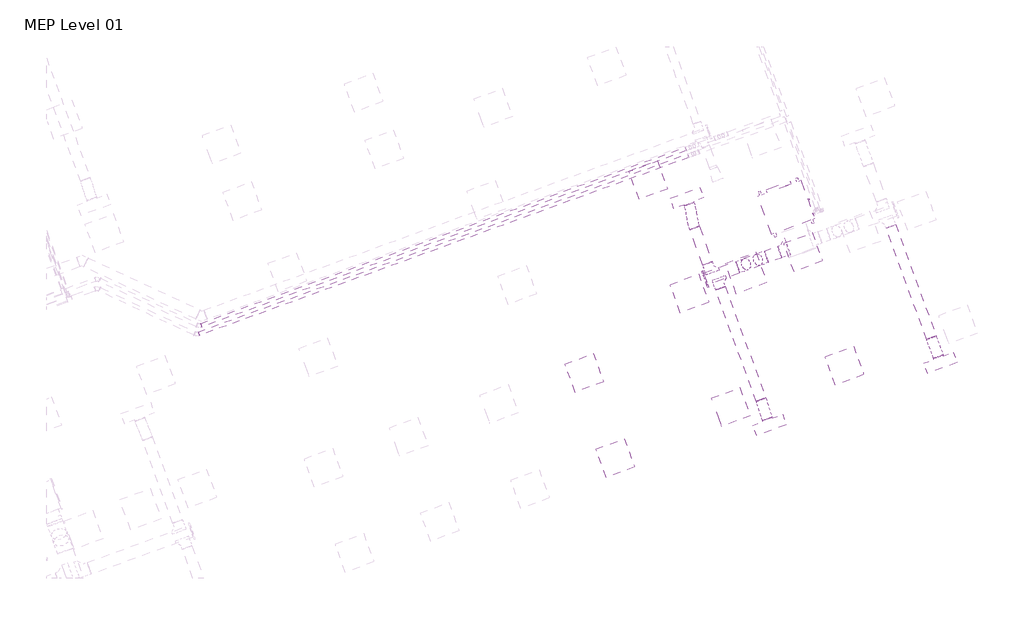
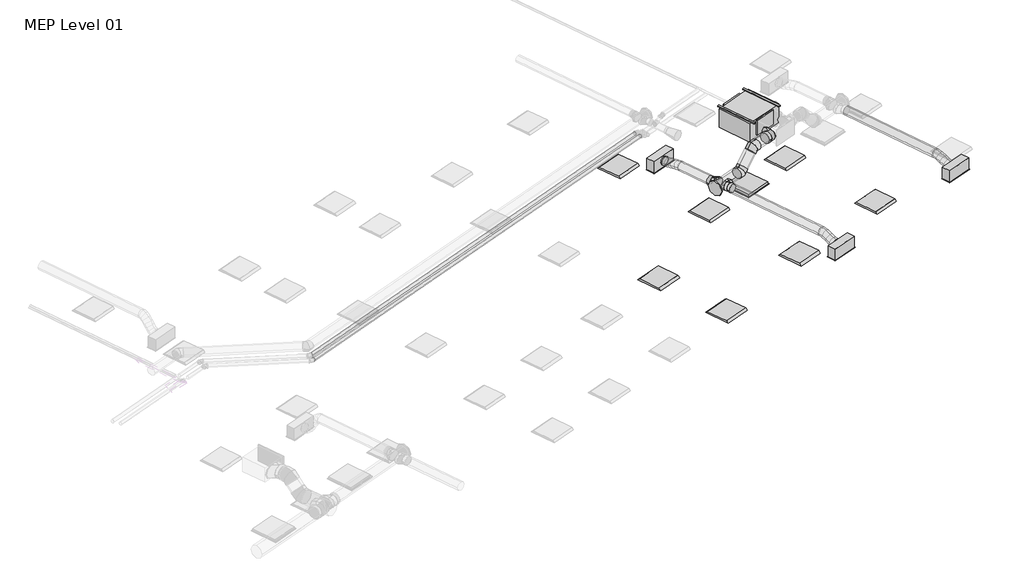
# One storey, part 25 of 29: 9 duct segments, 7 light fixtures, 6 duct fittings, 4 air terminals, 2 pipe segments, 1 proxy.
"""IFC4 building model written with IfcOpenShell, lengths in millimetres."""

from ifc_helpers import new_model, si_unit, point, frame, frame_2d, origin, place, context, project, spatial, circle_curve, ellipse_curve, trimmed, segment, composite_curve, outline, extrude, transform, mapped, element, save
from ifc_brep_helpers import plane_surface, cylinder_surface, advanced_brep
from components import return_grille_rectangular_hosted_standard_7b12617c, supply_diffuser_with_plenum_linear_slot_hosted_8c379eed, fan_coil_unit_ceiling_ducted_chw_376_lps_233c1d69, dw144_round_blank_end_standard_e3d0b58b, dw144_round_segmented_bend_slip_joint_standard_636bd9c1, dw144_round_shoe_branch_slip_joint_standard_559552f4, dw144_round_shoe_branch_slip_joint_standard_671412f0, light_fixture_600x600_230_1c7c1157, light_fixture_600x600_230_b730b5ca

model = new_model("IFC4")

# Units and contexts
model_context = context("Model", 3, world=origin())
ifc_project = project(units=[si_unit("LENGTHUNIT", "METRE", prefix="MILLI")], contexts=[model_context])

# Site, building, storey
site = spatial("IfcSite", under=ifc_project)
building = spatial("IfcBuilding", under=site)
storey = spatial("IfcBuildingStorey", under=building, Name="MEP Level 01", Elevation=3900.0)

# Air terminals
placement = place(None, origin())
return_grille_rectangular_hosted_standard_shape = return_grille_rectangular_hosted_standard_7b12617c(model_context)
element("IfcAirTerminal", 1, ObjectType="Return Grille - Rectangular - Hosted : Standard", at=placement, inside=storey, context=model_context, shape_type="MappedRepresentation", body=[
    mapped(return_grille_rectangular_hosted_standard_shape, transform((60085.8279951, 13927.8982228, 6700.0), x_axis=(0.939692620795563, 0.3420201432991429, 0.0), y_axis=(0.3420201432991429, -0.939692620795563, 0.0), z_axis=(0.0, 0.0, -1.0))),
])
supply_diffuser_with_plenum_linear_slot_hosted_shape = supply_diffuser_with_plenum_linear_slot_hosted_8c379eed(model_context)
element("IfcAirTerminal", 2, ObjectType="Supply Diffuser with Plenum - Linear Slot - Hosted : 600mmx193.8mm-200 In Inlet  4-Slot", at=placement, inside=storey, context=model_context, shape_type="MappedRepresentation", body=[
    mapped(supply_diffuser_with_plenum_linear_slot_hosted_shape, transform((58909.9480529, 15418.2584463, 6700.0), x_axis=(-0.9396926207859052, -0.3420201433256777, 0.0), y_axis=(-0.3420201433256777, 0.9396926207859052, 0.0), z_axis=(0.0, 0.0, -1.0))),
])
element("IfcAirTerminal", 3, ObjectType="Supply Diffuser with Plenum - Linear Slot - Hosted : 600mmx193.8mm-200 In Inlet  4-Slot", at=placement, inside=storey, context=model_context, shape_type="MappedRepresentation", body=[
    mapped(supply_diffuser_with_plenum_linear_slot_hosted_shape, transform((60551.6447408, 10907.7338665, 6700.0), x_axis=(0.939692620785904, 0.34202014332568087, 0.0), y_axis=(0.34202014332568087, -0.939692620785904, 0.0), z_axis=(0.0, 0.0, -1.0))),
])
element("IfcAirTerminal", 4, ObjectType="Supply Diffuser with Plenum - Linear Slot - Hosted : 600mmx193.8mm-200 In Inlet  4-Slot", at=placement, inside=storey, context=model_context, shape_type="MappedRepresentation", body=[
    mapped(supply_diffuser_with_plenum_linear_slot_hosted_shape, transform((63945.5325789, 12143.008018, 6700.0), x_axis=(0.939692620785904, 0.34202014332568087, 0.0), y_axis=(0.34202014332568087, -0.939692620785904, 0.0), z_axis=(0.0, 0.0, -1.0))),
])

# Proxy
fan_coil_unit_ceiling_ducted_chw_376_lps_shape = fan_coil_unit_ceiling_ducted_chw_376_lps_233c1d69(model_context)
element("IfcBuildingElementProxy", 5, Name="Fan Coil Unit - Ceiling Ducted - CHW : 376 LPS", ObjectType="Fan Coil Unit - Ceiling Ducted - CHW : 376 LPS", at=placement, inside=storey, context=model_context, shape_type="MappedRepresentation", body=[
    mapped(fan_coil_unit_ceiling_ducted_chw_376_lps_shape, transform((60591.3674268, 14691.8764142, 7115.575), x_axis=(0.9396926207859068, 0.34202014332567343, 0.0), y_axis=(-0.34202014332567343, 0.9396926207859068, 0.0), z_axis=(0.0, 0.0, 1.0))),
])

# Duct fittings
dw144_round_blank_end_standard_shape = dw144_round_blank_end_standard_e3d0b58b(model_context)
element("IfcDuctFitting", 6, ObjectType="DW144 Round Blank End : Standard", at=placement, inside=storey, context=model_context, shape_type="MappedRepresentation", body=[
    mapped(dw144_round_blank_end_standard_shape, transform((59281.7426902, 13810.5786489, 6972.2088531), x_axis=(-0.9396926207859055, -0.3420201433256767, 0.0), y_axis=(0.3420201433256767, -0.9396926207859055, 0.0), z_axis=(0.0, 0.0, 1.0))),
])
dw144_round_segmented_bend_slip_joint_standard_shape = dw144_round_segmented_bend_slip_joint_standard_636bd9c1(model_context)
element("IfcDuctFitting", 7, ObjectType="DW144 Round Segmented Bend - Slip Joint : Standard", at=placement, inside=storey, context=model_context, shape_type="MappedRepresentation", body=[
    mapped(dw144_round_segmented_bend_slip_joint_standard_shape, transform((60017.1840423, 14078.2574101, 6972.2088531), x_axis=(-0.6644630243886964, -0.24184476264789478, -0.7071067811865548), y_axis=(-0.6644630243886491, -0.24184476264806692, 0.7071067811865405), z_axis=(-0.34202014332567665, 0.9396926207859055, 0.0))),
])
element("IfcDuctFitting", 8, ObjectType="DW144 Round Segmented Bend - Slip Joint : Standard", at=placement, inside=storey, context=model_context, shape_type="MappedRepresentation", body=[
    mapped(dw144_round_segmented_bend_slip_joint_standard_shape, transform((60390.5860782, 14214.1646366, 7369.575), x_axis=(-0.9396926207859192, -0.3420201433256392, 0.0), y_axis=(0.0, 0.0, -1.0000000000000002), z_axis=(0.3420201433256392, -0.9396926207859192, 0.0))),
])
dw144_round_shoe_branch_slip_joint_standard_shape = dw144_round_shoe_branch_slip_joint_standard_559552f4(model_context)
element("IfcDuctFitting", 9, ObjectType="DW144 Round Shoe Branch - Slip Joint : Standard", at=placement, inside=storey, context=model_context, shape_type="MappedRepresentation", body=[
    mapped(dw144_round_shoe_branch_slip_joint_standard_shape, transform((59369.8278219, 13975.6612364, 6972.2088531), x_axis=(-0.34202014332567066, 0.9396926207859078, 0.0), y_axis=(0.9396926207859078, 0.34202014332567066, 0.0), z_axis=(0.0, 0.0, -1.0))),
])
element("IfcDuctFitting", 10, ObjectType="DW144 Round Shoe Branch - Slip Joint : Standard", at=placement, inside=storey, context=model_context, shape_type="MappedRepresentation", body=[
    mapped(dw144_round_shoe_branch_slip_joint_standard_shape, transform((59523.8850118, 13765.6890248, 6972.2088531), x_axis=(0.3420201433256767, -0.9396926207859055, 0.0), y_axis=(0.9396926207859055, 0.3420201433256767, 0.0), z_axis=(0.0, 0.0, 1.0))),
])
dw144_round_shoe_branch_slip_joint_standard_2_shape = dw144_round_shoe_branch_slip_joint_standard_671412f0(model_context)
element("IfcDuctFitting", 11, ObjectType="DW144 Round Shoe Branch - Slip Joint : Standard", at=placement, inside=storey, context=model_context, shape_type="MappedRepresentation", body=[
    mapped(dw144_round_shoe_branch_slip_joint_standard_2_shape, transform((60916.1183876, 14405.4427543, 7369.575), x_axis=(-0.9396926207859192, -0.3420201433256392, 0.0), y_axis=(-0.3420201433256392, 0.9396926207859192, 0.0), z_axis=(0.0, 0.0, -1.0))),
])

# Duct segments
element("IfcDuctSegment", 12, ObjectType="DW144 Segmented Bend / Shoe Branch", at=placement, inside=storey, context=model_context, shape_type="SweptSolid", body=[
    extrude(outline(composite_curve([segment(trimmed(circle_curve(frame_2d((0.0, 125.0)), 125.0), [point((125.0, 125.0))], [point((0.0, 0.0))], False, "CARTESIAN"), True, "CONTINUOUS"), segment(trimmed(circle_curve(frame_2d((0.0, 125.0)), 125.0), [point((0.0, 0.0))], [point((-125.0, 125.0))], False, "CARTESIAN"), True, "CONTINUOUS"), segment(trimmed(circle_curve(frame_2d((0.0, 125.0)), 125.0), [point((-125.0, 125.0))], [point((0.0, 250.0))], False, "CARTESIAN"), True, "CONTINUOUS"), segment(trimmed(circle_curve(frame_2d((0.0, 125.0)), 125.0), [point((0.0, 250.0))], [point((125.0, 125.0))], False, "CARTESIAN"), True, "CONTINUOUS")], self_intersect=False)), frame((59281.7426902, 13810.5786489, 7097.2088531), z_axis=(0.9396926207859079, 0.3420201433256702, 0.0), x_axis=(0.3420201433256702, -0.9396926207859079, 0.0)), (0.0, 0.0, 1.0), 679.0869492),
])
element("IfcDuctSegment", 13, ObjectType="DW144 Segmented Bend / Shoe Branch", at=placement, inside=storey, context=model_context, shape_type="SweptSolid", body=[
    extrude(outline(composite_curve([segment(trimmed(circle_curve(frame_2d((0.0, -100.0)), 100.0), [point((-100.0, -100.0))], [point((0.0, 0.0))], False, "CARTESIAN"), True, "CONTINUOUS"), segment(trimmed(circle_curve(frame_2d((0.0, -100.0)), 100.0), [point((0.0, 0.0))], [point((100.0, -100.0))], False, "CARTESIAN"), True, "CONTINUOUS"), segment(trimmed(circle_curve(frame_2d((0.0, -100.0)), 100.0), [point((100.0, -100.0))], [point((0.0, -200.0))], False, "CARTESIAN"), True, "CONTINUOUS"), segment(trimmed(circle_curve(frame_2d((0.0, -100.0)), 100.0), [point((0.0, -200.0))], [point((-100.0, -100.0))], False, "CARTESIAN"), True, "CONTINUOUS")], self_intersect=False)), frame((63763.6810908, 12642.6408754, 6872.2088531), z_axis=(-0.34202014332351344, 0.9396926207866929, 0.0), x_axis=(0.9396926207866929, 0.34202014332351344, 0.0)), (0.0, 0.0, 1.0), 2355.4157214),
])
element("IfcDuctSegment", 14, ObjectType="DW144 Segmented Bend / Shoe Branch", at=placement, inside=storey, context=model_context, shape_type="SweptSolid", body=[
    extrude(outline(composite_curve([segment(trimmed(circle_curve(frame_2d((0.0, 100.0)), 100.0), [point((99.9999999, 100.0))], [point((0.0, 0.0))], False, "CARTESIAN"), True, "CONTINUOUS"), segment(trimmed(circle_curve(frame_2d((0.0, 100.0)), 100.0), [point((0.0, 0.0))], [point((-100.0, 100.0))], False, "CARTESIAN"), True, "CONTINUOUS"), segment(trimmed(circle_curve(frame_2d((0.0, 100.0)), 100.0), [point((-100.0, 100.0))], [point((0.0, 200.0))], False, "CARTESIAN"), True, "CONTINUOUS"), segment(trimmed(circle_curve(frame_2d((0.0, 100.0)), 100.0), [point((0.0, 200.0))], [point((99.9999999, 100.0))], False, "CARTESIAN"), True, "CONTINUOUS")], self_intersect=False)), frame((59318.5248004, 14116.6151296, 7072.2088531), z_axis=(-0.3420201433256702, 0.9396926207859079, 0.0), x_axis=(0.9396926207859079, 0.3420201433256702, 0.0)), (0.0, 0.0, 1.0), 750.0),
])
element("IfcDuctSegment", 15, ObjectType="DW144 Segmented Bend / Shoe Branch", at=placement, inside=storey, context=model_context, shape_type="SweptSolid", body=[
    extrude(outline(composite_curve([segment(trimmed(circle_curve(frame_2d((0.0, 100.0)), 100.0), [point((100.0, 100.0))], [point((0.0, 0.0))], False, "CARTESIAN"), True, "CONTINUOUS"), segment(trimmed(circle_curve(frame_2d((0.0, 100.0)), 100.0), [point((0.0, 0.0))], [point((-99.9999999, 100.0))], False, "CARTESIAN"), True, "CONTINUOUS"), segment(trimmed(circle_curve(frame_2d((0.0, 100.0)), 100.0), [point((-99.9999999, 100.0))], [point((0.0, 200.0))], False, "CARTESIAN"), True, "CONTINUOUS"), segment(trimmed(circle_curve(frame_2d((0.0, 100.0)), 100.0), [point((0.0, 200.0))], [point((100.0, 100.0))], False, "CARTESIAN"), True, "CONTINUOUS")], self_intersect=False)), frame((60380.7876559, 11411.3683594, 7072.2088531), z_axis=(-0.34202014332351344, 0.9396926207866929, 0.0), x_axis=(0.9396926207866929, 0.34202014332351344, 0.0)), (0.0, 0.0, 1.0), 2355.4157214),
])
element("IfcDuctSegment", 16, ObjectType="DW144 Segmented Bend / Shoe Branch", at=placement, inside=storey, context=model_context, shape_type="SweptSolid", body=[
    extrude(outline(composite_curve([segment(trimmed(circle_curve(frame_2d((0.0, -125.0)), 125.0), [point((-125.0, -125.0))], [point((0.0, 0.0))], False, "CARTESIAN"), True, "CONTINUOUS"), segment(trimmed(circle_curve(frame_2d((0.0, -125.0)), 125.0), [point((0.0, 0.0))], [point((125.0, -125.0))], False, "CARTESIAN"), True, "CONTINUOUS"), segment(trimmed(circle_curve(frame_2d((0.0, -125.0)), 125.0), [point((125.0, -125.0))], [point((0.0, -250.0))], False, "CARTESIAN"), True, "CONTINUOUS"), segment(trimmed(circle_curve(frame_2d((0.0, -125.0)), 125.0), [point((0.0, -250.0))], [point((-125.0, -125.0))], False, "CARTESIAN"), True, "CONTINUOUS")], self_intersect=False)), frame((60487.8944352, 14249.5819821, 7244.575), z_axis=(0.9396926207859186, 0.3420201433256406, 0.0), x_axis=(0.3420201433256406, -0.9396926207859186, 0.0)), (0.0, 0.0, 1.0), 280.7064117),
])
element("IfcDuctSegment", 17, ObjectType="DW144 Segmented Bend / Shoe Branch", at=placement, inside=storey, context=model_context, shape_type="SweptSolid", body=[
    extrude(outline(composite_curve([segment(trimmed(circle_curve(frame_2d((0.0, -125.0)), 125.0), [point((-57.2076922, -13.8591887))], [point((111.1408113, -67.7923077))], False, "CARTESIAN"), True, "CONTINUOUS"), segment(trimmed(circle_curve(frame_2d((0.0, -125.0)), 125.0), [point((111.1408113, -67.7923077))], [point((57.2076923, -236.1408114))], False, "CARTESIAN"), True, "CONTINUOUS"), segment(trimmed(circle_curve(frame_2d((0.0, -125.0)), 125.0), [point((57.2076923, -236.1408114))], [point((-111.1408114, -182.2076923))], False, "CARTESIAN"), True, "CONTINUOUS"), segment(trimmed(circle_curve(frame_2d((0.0, -125.0)), 125.0), [point((-111.1408114, -182.2076923))], [point((-57.2076922, -13.8591887))], False, "CARTESIAN"), True, "CONTINUOUS")], self_intersect=False)), frame((60085.9914414, 14221.5748363, 7004.9802107), z_axis=(0.6644630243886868, 0.24184476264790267, 0.7071067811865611), x_axis=(0.7473211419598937, -0.21503058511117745, -0.6287073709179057)), (0.0, 0.0, 1.0), 354.8538129),
])
element("IfcDuctSegment", 18, ObjectType="Flex - Round", at=placement, inside=storey, context=model_context, shape_type="AdvancedBrep", body=[
    advanced_brep(
    [(58968.0404308, 14787.1825808, 6972.2088531), (59062.0096929, 14821.3845951, 6872.2088531), (59155.9789549, 14855.5866095, 6972.2088531), (59062.0096929, 14821.3845951, 7072.2088531), (58962.5721424, 14802.2065796, 6972.2088531), (59060.2125358, 14826.3222437, 6872.2088531), (59153.0222525, 14863.7100827, 6972.2088531), (59055.3818591, 14839.5944186, 7072.2088531), (58860.0651873, 15262.9300531, 6854.4), (58954.0344493, 15297.1320675, 6954.4), (59048.0037114, 15331.3340818, 6854.4), (58954.0344493, 15297.1320675, 6754.4), (58937.0196311, 14892.6674709, 6958.8839491), (59040.6740237, 14895.4924005, 6862.0200778), (59131.5841884, 14939.6050256, 6961.0295157), (59027.9297957, 14936.780096, 7057.893387), (58917.4963466, 14993.0799105, 6928.1156387), (59024.0290854, 14981.1008882, 6835.787984), (59114.0301099, 15029.8894164, 6933.364635), (59007.4973711, 15041.8684386, 7025.6922896), (58902.0140323, 15088.6272463, 6893.2442181), (59008.5467711, 15076.648224, 6800.9165635), (59098.5477956, 15125.4367521, 6898.4932145), (58992.0150568, 15137.4157744, 6990.8208691), (58884.4599539, 15178.911637, 6865.5793374), (58988.1143465, 15181.7365666, 6768.7154661), (59079.0245111, 15225.8491917, 6867.724904), (58975.3701185, 15223.0242621, 6964.5887754), (58863.0218897, 15254.8065799, 6854.4), (58960.6622831, 15278.922244, 6754.4), (59053.4719998, 15316.310083, 6854.4), (58955.8316064, 15292.1944189, 6954.4)],
    [
        (0, 1, circle_curve(frame((59062.0096929, 14821.3845951, 6972.2088531), z_axis=(0.34202014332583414, -0.9396926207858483, 0.0), x_axis=(-0.9396926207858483, -0.34202014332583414, 0.0)), 100.0)),
        (1, 2, circle_curve(frame((59062.0096929, 14821.3845951, 6972.2088531), z_axis=(0.34202014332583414, -0.9396926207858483, 0.0), x_axis=(-0.9396926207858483, -0.34202014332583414, 0.0)), 100.0)),
        (2, 3, circle_curve(frame((59062.0096929, 14821.3845951, 6972.2088531), z_axis=(0.34202014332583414, -0.9396926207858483, 0.0), x_axis=(-0.9396926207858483, -0.34202014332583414, 0.0)), 100.0)),
        (3, 0, circle_curve(frame((59062.0096929, 14821.3845951, 6972.2088531), z_axis=(0.34202014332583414, -0.9396926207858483, 0.0), x_axis=(-0.9396926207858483, -0.34202014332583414, 0.0)), 100.0)),
        (0, 4),
        (4, 5, ellipse_curve(frame((59057.7971975, 14832.9583311, 6972.2088531), z_axis=(0.30654801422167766, -0.949248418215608, 0.07039712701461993), x_axis=(0.4592505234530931, 0.08271786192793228, -0.8844471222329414)), 100.3162641, 100.0)),
        (5, 1),
        (5, 6, ellipse_curve(frame((59057.7971975, 14832.9583311, 6972.2088531), z_axis=(0.30654801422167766, -0.949248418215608, 0.07039712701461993), x_axis=(0.4592505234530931, 0.08271786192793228, -0.8844471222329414)), 100.3162641, 100.0)),
        (6, 2),
        (6, 7, ellipse_curve(frame((59057.7971975, 14832.9583311, 6972.2088531), z_axis=(0.30654801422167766, -0.949248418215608, 0.07039712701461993), x_axis=(0.4592505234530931, 0.08271786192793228, -0.8844471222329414)), 100.3162641, 100.0)),
        (7, 3),
        (7, 4, ellipse_curve(frame((59057.7971975, 14832.9583311, 6972.2088531), z_axis=(0.30654801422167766, -0.949248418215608, 0.07039712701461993), x_axis=(0.4592505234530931, 0.08271786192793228, -0.8844471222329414)), 100.3162641, 100.0)),
        (8, 9, circle_curve(frame((58954.0344493, 15297.1320675, 6854.4), z_axis=(-0.3420201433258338, 0.9396926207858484, 0.0), x_axis=(-0.9396926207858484, -0.3420201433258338, 0.0)), 100.0)),
        (9, 10, circle_curve(frame((58954.0344493, 15297.1320675, 6854.4), z_axis=(-0.3420201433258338, 0.9396926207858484, 0.0), x_axis=(-0.9396926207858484, -0.3420201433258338, 0.0)), 100.0)),
        (10, 11, circle_curve(frame((58954.0344493, 15297.1320675, 6854.4), z_axis=(-0.3420201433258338, 0.9396926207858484, 0.0), x_axis=(-0.9396926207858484, -0.3420201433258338, 0.0)), 100.0)),
        (11, 8, circle_curve(frame((58954.0344493, 15297.1320675, 6854.4), z_axis=(-0.3420201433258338, 0.9396926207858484, 0.0), x_axis=(-0.9396926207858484, -0.3420201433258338, 0.0)), 100.0)),
        (4, 12),
        (12, 13, ellipse_curve(frame((59034.3019097, 14916.1362483, 6959.9567324), z_axis=(0.2267915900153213, -0.9499189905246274, 0.2149871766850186), x_axis=(0.5034364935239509, -0.07462382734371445, -0.8608036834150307)), 100.3699991, 100.0)),
        (13, 5),
        (13, 14, ellipse_curve(frame((59034.3019097, 14916.1362483, 6959.9567324), z_axis=(0.2267915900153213, -0.9499189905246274, 0.2149871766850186), x_axis=(0.5034364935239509, -0.07462382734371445, -0.8608036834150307)), 100.3699991, 100.0)),
        (14, 6),
        (14, 15, ellipse_curve(frame((59034.3019097, 14916.1362483, 6959.9567324), z_axis=(0.2267915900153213, -0.9499189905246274, 0.2149871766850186), x_axis=(0.5034364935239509, -0.07462382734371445, -0.8608036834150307)), 100.3699991, 100.0)),
        (15, 7),
        (15, 12, ellipse_curve(frame((59034.3019097, 14916.1362483, 6959.9567324), z_axis=(0.2267915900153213, -0.9499189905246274, 0.2149871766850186), x_axis=(0.5034364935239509, -0.07462382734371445, -0.8608036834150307)), 100.3699991, 100.0)),
        (12, 16),
        (16, 17, ellipse_curve(frame((59015.7632282, 15011.4846634, 6930.7401368), z_axis=(0.1667044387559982, -0.9347947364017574, 0.3136374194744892), x_axis=(0.5263956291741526, -0.1845903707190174, -0.8299602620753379)), 100.0470512, 100.0)),
        (17, 13),
        (17, 18, ellipse_curve(frame((59015.7632282, 15011.4846634, 6930.7401368), z_axis=(0.1667044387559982, -0.9347947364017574, 0.3136374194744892), x_axis=(0.5263956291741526, -0.1845903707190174, -0.8299602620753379)), 100.0470512, 100.0)),
        (18, 14),
        (18, 19, ellipse_curve(frame((59015.7632282, 15011.4846634, 6930.7401368), z_axis=(0.1667044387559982, -0.9347947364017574, 0.3136374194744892), x_axis=(0.5263956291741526, -0.1845903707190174, -0.8299602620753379)), 100.0470512, 100.0)),
        (19, 15),
        (19, 16, ellipse_curve(frame((59015.7632282, 15011.4846634, 6930.7401368), z_axis=(0.1667044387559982, -0.9347947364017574, 0.3136374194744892), x_axis=(0.5263956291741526, -0.1845903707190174, -0.8299602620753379)), 100.0470512, 100.0)),
        (16, 20),
        (20, 21, ellipse_curve(frame((59000.280914, 15107.0319992, 6895.8687163), z_axis=(0.16670443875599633, -0.9347947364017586, 0.31363741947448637), x_axis=(-0.5263956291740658, 0.18459037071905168, 0.8299602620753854)), 100.0470512, 100.0)),
        (21, 17),
        (21, 22, ellipse_curve(frame((59000.280914, 15107.0319992, 6895.8687163), z_axis=(0.16670443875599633, -0.9347947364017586, 0.31363741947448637), x_axis=(-0.5263956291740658, 0.18459037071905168, 0.8299602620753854)), 100.0470512, 100.0)),
        (22, 18),
        (22, 23, ellipse_curve(frame((59000.280914, 15107.0319992, 6895.8687163), z_axis=(0.16670443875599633, -0.9347947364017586, 0.31363741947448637), x_axis=(-0.5263956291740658, 0.18459037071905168, 0.8299602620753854)), 100.0470512, 100.0)),
        (23, 19),
        (23, 20, ellipse_curve(frame((59000.280914, 15107.0319992, 6895.8687163), z_axis=(0.16670443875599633, -0.9347947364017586, 0.31363741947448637), x_axis=(-0.5263956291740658, 0.18459037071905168, 0.8299602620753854)), 100.0470512, 100.0)),
        (20, 24),
        (24, 25, ellipse_curve(frame((58981.7422325, 15202.3804143, 6866.6521207), z_axis=(0.22679159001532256, -0.9499189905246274, 0.21498717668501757), x_axis=(-0.5034364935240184, 0.07462382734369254, 0.8608036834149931)), 100.3699991, 100.0)),
        (25, 21),
        (25, 26, ellipse_curve(frame((58981.7422325, 15202.3804143, 6866.6521207), z_axis=(0.22679159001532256, -0.9499189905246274, 0.21498717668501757), x_axis=(-0.5034364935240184, 0.07462382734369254, 0.8608036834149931)), 100.3699991, 100.0)),
        (26, 22),
        (26, 27, ellipse_curve(frame((58981.7422325, 15202.3804143, 6866.6521207), z_axis=(0.22679159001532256, -0.9499189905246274, 0.21498717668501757), x_axis=(-0.5034364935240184, 0.07462382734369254, 0.8608036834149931)), 100.3699991, 100.0)),
        (27, 23),
        (27, 24, ellipse_curve(frame((58981.7422325, 15202.3804143, 6866.6521207), z_axis=(0.22679159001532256, -0.9499189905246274, 0.21498717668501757), x_axis=(-0.5034364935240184, 0.07462382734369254, 0.8608036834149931)), 100.3699991, 100.0)),
        (24, 28),
        (28, 29, ellipse_curve(frame((58958.2469447, 15285.5583315, 6854.4), z_axis=(0.3065480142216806, -0.9492484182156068, 0.07039712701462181), x_axis=(-0.4592505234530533, -0.08271786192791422, 0.8844471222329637)), 100.3162641, 100.0)),
        (29, 25),
        (29, 30, ellipse_curve(frame((58958.2469447, 15285.5583315, 6854.4), z_axis=(0.3065480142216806, -0.9492484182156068, 0.07039712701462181), x_axis=(-0.4592505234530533, -0.08271786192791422, 0.8844471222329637)), 100.3162641, 100.0)),
        (30, 26),
        (30, 31, ellipse_curve(frame((58958.2469447, 15285.5583315, 6854.4), z_axis=(0.3065480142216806, -0.9492484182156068, 0.07039712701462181), x_axis=(-0.4592505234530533, -0.08271786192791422, 0.8844471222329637)), 100.3162641, 100.0)),
        (31, 27),
        (31, 28, ellipse_curve(frame((58958.2469447, 15285.5583315, 6854.4), z_axis=(0.3065480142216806, -0.9492484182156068, 0.07039712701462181), x_axis=(-0.4592505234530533, -0.08271786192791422, 0.8844471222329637)), 100.3162641, 100.0)),
        (28, 8),
        (11, 29),
        (10, 30),
        (9, 31),
    ],
    [
        plane_surface(frame((59062.0096929, 14821.3845951, 7072.2088531), z_axis=(0.3420201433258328, -0.9396926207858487, 0.0), x_axis=(0.9396926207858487, 0.3420201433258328, 0.0))),
        cylinder_surface(frame((59062.0096929, 14821.3845951, 6972.2088531), z_axis=(0.34202014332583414, -0.9396926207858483, 0.0), x_axis=(-0.9396926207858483, -0.34202014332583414, 0.0)), 100.0),
        plane_surface(frame((58954.0344493, 15297.1320675, 6954.4), z_axis=(-0.3420201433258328, 0.9396926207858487, 0.0), x_axis=(0.9396926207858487, 0.3420201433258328, 0.0))),
        cylinder_surface(frame((59057.7971975, 14832.9583311, 6972.2088531), z_axis=(0.26914299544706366, -0.9528188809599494, 0.14035037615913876), x_axis=(-0.9621326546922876, -0.2725329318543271, -0.005153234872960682)), 100.0),
        cylinder_surface(frame((59034.3019097, 14916.1362483, 6959.9567324), z_axis=(0.18276811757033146, -0.9400156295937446, 0.2880389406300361), x_axis=(-0.980082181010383, -0.19735114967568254, -0.022168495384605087)), 100.0),
        cylinder_surface(frame((59015.7632282, 15011.4846634, 6930.7401368), z_axis=(0.1504839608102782, -0.9286945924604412, 0.33894089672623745), x_axis=(-0.9847985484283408, -0.1709041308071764, -0.031041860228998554)), 100.0),
        cylinder_surface(frame((59000.280914, 15107.0319992, 6895.8687163), z_axis=(0.18276811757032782, -0.9400156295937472, 0.28803894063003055), x_axis=(-0.9800821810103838, -0.19735114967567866, -0.02216849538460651)), 100.0),
        cylinder_surface(frame((58981.7422325, 15202.3804143, 6866.6521207), z_axis=(0.2691429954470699, -0.952818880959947, 0.14035037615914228), x_axis=(-0.9621326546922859, -0.2725329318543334, -0.005153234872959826)), 100.0),
        cylinder_surface(frame((58958.2469447, 15285.5583315, 6854.4), z_axis=(0.3420201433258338, -0.9396926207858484, 0.0), x_axis=(-0.9396926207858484, -0.3420201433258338, 0.0)), 100.0),
    ],
    [
        (0, [[1, 2, 3, 4]]),
        (1, [[-1, 5, 6, 7]]),
        (1, [[-2, -7, 8, 9]]),
        (1, [[-3, -9, 10, 11]]),
        (1, [[-4, -11, 12, -5]]),
        (2, [[13, 14, 15, 16]]),
        (3, [[-6, 17, 18, 19]]),
        (3, [[-8, -19, 20, 21]]),
        (3, [[-10, -21, 22, 23]]),
        (3, [[-12, -23, 24, -17]]),
        (4, [[-18, 25, 26, 27]]),
        (4, [[-20, -27, 28, 29]]),
        (4, [[-22, -29, 30, 31]]),
        (4, [[-24, -31, 32, -25]]),
        (5, [[-26, 33, 34, 35]]),
        (5, [[-28, -35, 36, 37]]),
        (5, [[-30, -37, 38, 39]]),
        (5, [[-32, -39, 40, -33]]),
        (6, [[-34, 41, 42, 43]]),
        (6, [[-36, -43, 44, 45]]),
        (6, [[-38, -45, 46, 47]]),
        (6, [[-40, -47, 48, -41]]),
        (7, [[-42, 49, 50, 51]]),
        (7, [[-44, -51, 52, 53]]),
        (7, [[-46, -53, 54, 55]]),
        (7, [[-48, -55, 56, -49]]),
        (8, [[-50, 57, -16, 58]]),
        (8, [[-52, -58, -15, 59]]),
        (8, [[-54, -59, -14, 60]]),
        (8, [[-56, -60, -13, -57]]),
    ],
),
])
element("IfcDuctSegment", 19, ObjectType="Flex - Round", at=placement, inside=storey, context=model_context, shape_type="AdvancedBrep", body=[
    advanced_brep(
    [(60474.756918, 11445.5703738, 6972.2088531), (60380.7876559, 11411.3683594, 6872.2088531), (60286.8183939, 11377.1663451, 6972.2088531), (60380.7876559, 11411.3683594, 7072.2088531), (60481.1783888, 11427.9275278, 6972.2088531), (60383.1659532, 11404.8340413, 6872.2088531), (60292.5093335, 11361.5306171, 6972.2088531), (60390.521769, 11384.6241035, 7072.2088531), (60601.5276064, 11063.0622597, 6854.4), (60507.5583444, 11028.8602453, 6954.4), (60413.5890823, 10994.658231, 6854.4), (60507.5583444, 11028.8602453, 6754.4), (60508.9989965, 11346.0267123, 6953.3905604), (60404.2663672, 11342.7167385, 6857.9362042), (60319.1157189, 11283.2043385, 6954.2118792), (60423.8483482, 11286.5143124, 7049.6662355), (60539.3574463, 11250.763573, 6912.5672617), (60431.9371496, 11255.8873513, 6820.7270377), (60348.988554, 11189.4650317, 6914.0415914), (60456.4088507, 11184.3412534, 7005.8818154), (60569.2302814, 11157.0242662, 6872.3969739), (60464.4976521, 11153.7142924, 6776.9426177), (60379.3470038, 11094.2018924, 6873.2182927), (60484.0796331, 11097.5118663, 6968.6726489), (60595.8366668, 11078.6979877, 6854.4), (60497.8242313, 11055.6045013, 6754.4), (60407.1676115, 11012.301077, 6854.4), (60505.1800471, 11035.3945634, 6954.4)],
    [
        (0, 1, circle_curve(frame((60380.7876559, 11411.3683594, 6972.2088531), z_axis=(-0.3420201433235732, 0.9396926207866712, 0.0), x_axis=(0.9396926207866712, 0.3420201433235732, 0.0)), 100.0)),
        (1, 2, circle_curve(frame((60380.7876559, 11411.3683594, 6972.2088531), z_axis=(-0.3420201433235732, 0.9396926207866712, 0.0), x_axis=(0.9396926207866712, 0.3420201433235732, 0.0)), 100.0)),
        (2, 3, circle_curve(frame((60380.7876559, 11411.3683594, 6972.2088531), z_axis=(-0.3420201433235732, 0.9396926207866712, 0.0), x_axis=(0.9396926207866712, 0.3420201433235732, 0.0)), 100.0)),
        (3, 0, circle_curve(frame((60380.7876559, 11411.3683594, 6972.2088531), z_axis=(-0.3420201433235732, 0.9396926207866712, 0.0), x_axis=(0.9396926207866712, 0.3420201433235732, 0.0)), 100.0)),
        (0, 4),
        (4, 5, ellipse_curve(frame((60386.8438611, 11394.7290724, 6972.2088531), z_axis=(-0.33006294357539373, 0.9378849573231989, 0.10691239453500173), x_axis=(-0.12907576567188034, 0.06735376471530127, -0.9893446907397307)), 100.582195, 100.0)),
        (5, 1),
        (5, 6, ellipse_curve(frame((60386.8438611, 11394.7290724, 6972.2088531), z_axis=(-0.33006294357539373, 0.9378849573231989, 0.10691239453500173), x_axis=(-0.12907576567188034, 0.06735376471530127, -0.9893446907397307)), 100.582195, 100.0)),
        (6, 2),
        (6, 7, ellipse_curve(frame((60386.8438611, 11394.7290724, 6972.2088531), z_axis=(-0.33006294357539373, 0.9378849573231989, 0.10691239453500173), x_axis=(-0.12907576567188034, 0.06735376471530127, -0.9893446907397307)), 100.582195, 100.0)),
        (7, 3),
        (7, 4, ellipse_curve(frame((60386.8438611, 11394.7290724, 6972.2088531), z_axis=(-0.33006294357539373, 0.9378849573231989, 0.10691239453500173), x_axis=(-0.12907576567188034, 0.06735376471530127, -0.9893446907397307)), 100.582195, 100.0)),
        (8, 9, circle_curve(frame((60507.5583444, 11028.8602453, 6854.4), z_axis=(0.34202014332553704, -0.9396926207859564, 0.0), x_axis=(0.9396926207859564, 0.34202014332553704, 0.0)), 100.0)),
        (9, 10, circle_curve(frame((60507.5583444, 11028.8602453, 6854.4), z_axis=(0.34202014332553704, -0.9396926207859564, 0.0), x_axis=(0.9396926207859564, 0.34202014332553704, 0.0)), 100.0)),
        (10, 11, circle_curve(frame((60507.5583444, 11028.8602453, 6854.4), z_axis=(0.34202014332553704, -0.9396926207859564, 0.0), x_axis=(0.9396926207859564, 0.34202014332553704, 0.0)), 100.0)),
        (11, 8, circle_curve(frame((60507.5583444, 11028.8602453, 6854.4), z_axis=(0.34202014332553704, -0.9396926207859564, 0.0), x_axis=(0.9396926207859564, 0.34202014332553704, 0.0)), 100.0)),
        (4, 12),
        (12, 13, ellipse_curve(frame((60414.0573577, 11314.6155254, 6953.8012198), z_axis=(-0.2988301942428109, 0.9071022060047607, 0.296422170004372), x_axis=(-0.19053245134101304, 0.24764957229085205, -0.9499300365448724)), 100.3812182, 100.0)),
        (13, 5),
        (13, 14, ellipse_curve(frame((60414.0573577, 11314.6155254, 6953.8012198), z_axis=(-0.2988301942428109, 0.9071022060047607, 0.296422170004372), x_axis=(-0.19053245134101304, 0.24764957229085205, -0.9499300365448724)), 100.3812182, 100.0)),
        (14, 6),
        (14, 15, ellipse_curve(frame((60414.0573577, 11314.6155254, 6953.8012198), z_axis=(-0.2988301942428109, 0.9071022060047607, 0.296422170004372), x_axis=(-0.19053245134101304, 0.24764957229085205, -0.9499300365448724)), 100.3812182, 100.0)),
        (15, 7),
        (15, 12, ellipse_curve(frame((60414.0573577, 11314.6155254, 6953.8012198), z_axis=(-0.2988301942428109, 0.9071022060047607, 0.296422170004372), x_axis=(-0.19053245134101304, 0.24764957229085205, -0.9499300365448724)), 100.3812182, 100.0)),
        (12, 16),
        (16, 17, circle_curve(frame((60444.1730002, 11220.1143024, 6913.3044266), z_axis=(-0.2811058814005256, 0.8820947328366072, 0.3780057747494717), x_axis=(0.9518444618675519, 0.3064927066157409, -0.007371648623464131)), 100.0)),
        (17, 13),
        (17, 18, circle_curve(frame((60444.1730002, 11220.1143024, 6913.3044266), z_axis=(-0.2811058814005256, 0.8820947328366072, 0.3780057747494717), x_axis=(0.9518444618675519, 0.3064927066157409, -0.007371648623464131)), 100.0)),
        (18, 14),
        (18, 19, circle_curve(frame((60444.1730002, 11220.1143024, 6913.3044266), z_axis=(-0.2811058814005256, 0.8820947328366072, 0.3780057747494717), x_axis=(0.9518444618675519, 0.3064927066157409, -0.007371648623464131)), 100.0)),
        (19, 15),
        (19, 16, circle_curve(frame((60444.1730002, 11220.1143024, 6913.3044266), z_axis=(-0.2811058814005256, 0.8820947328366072, 0.3780057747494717), x_axis=(0.9518444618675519, 0.3064927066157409, -0.007371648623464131)), 100.0)),
        (16, 20),
        (20, 21, ellipse_curve(frame((60474.2886426, 11125.6130793, 6872.8076333), z_axis=(-0.2988301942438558, 0.907102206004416, 0.2964221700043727), x_axis=(0.19053245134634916, -0.2476495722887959, 0.949930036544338)), 100.3812182, 100.0)),
        (21, 17),
        (21, 22, ellipse_curve(frame((60474.2886426, 11125.6130793, 6872.8076333), z_axis=(-0.2988301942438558, 0.907102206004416, 0.2964221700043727), x_axis=(0.19053245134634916, -0.2476495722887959, 0.949930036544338)), 100.3812182, 100.0)),
        (22, 18),
        (22, 23, ellipse_curve(frame((60474.2886426, 11125.6130793, 6872.8076333), z_axis=(-0.2988301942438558, 0.907102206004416, 0.2964221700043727), x_axis=(0.19053245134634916, -0.2476495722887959, 0.949930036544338)), 100.3812182, 100.0)),
        (23, 19),
        (23, 20, ellipse_curve(frame((60474.2886426, 11125.6130793, 6872.8076333), z_axis=(-0.2988301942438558, 0.907102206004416, 0.2964221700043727), x_axis=(0.19053245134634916, -0.2476495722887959, 0.949930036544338)), 100.3812182, 100.0)),
        (20, 24),
        (24, 25, ellipse_curve(frame((60501.5021392, 11045.4995324, 6854.4), z_axis=(-0.3300629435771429, 0.9378849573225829, 0.10691239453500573), x_axis=(0.12907576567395, -0.06735376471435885, 0.9893446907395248)), 100.582195, 100.0)),
        (25, 21),
        (25, 26, ellipse_curve(frame((60501.5021392, 11045.4995324, 6854.4), z_axis=(-0.3300629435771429, 0.9378849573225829, 0.10691239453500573), x_axis=(0.12907576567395, -0.06735376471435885, 0.9893446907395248)), 100.582195, 100.0)),
        (26, 22),
        (26, 27, ellipse_curve(frame((60501.5021392, 11045.4995324, 6854.4), z_axis=(-0.3300629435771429, 0.9378849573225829, 0.10691239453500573), x_axis=(0.12907576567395, -0.06735376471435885, 0.9893446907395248)), 100.582195, 100.0)),
        (27, 23),
        (27, 24, ellipse_curve(frame((60501.5021392, 11045.4995324, 6854.4), z_axis=(-0.3300629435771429, 0.9378849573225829, 0.10691239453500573), x_axis=(0.12907576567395, -0.06735376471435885, 0.9893446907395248)), 100.582195, 100.0)),
        (24, 8),
        (11, 25),
        (10, 26),
        (9, 27),
    ],
    [
        plane_surface(frame((60380.7876559, 11411.3683594, 6872.2088531), z_axis=(-0.34202014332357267, 0.9396926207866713, 0.0), x_axis=(0.9396926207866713, 0.34202014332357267, 0.0))),
        cylinder_surface(frame((60380.7876559, 11411.3683594, 6972.2088531), z_axis=(-0.3420201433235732, 0.9396926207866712, 0.0), x_axis=(0.9396926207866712, 0.3420201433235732, 0.0)), 100.0),
        plane_surface(frame((60507.5583444, 11028.8602453, 6754.4), z_axis=(0.3420201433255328, -0.9396926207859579, 0.0), x_axis=(0.9396926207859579, 0.3420201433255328, 0.0))),
        cylinder_surface(frame((60386.8438611, 11394.7290724, 6972.2088531), z_axis=(-0.31428476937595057, 0.9252198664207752, 0.2125871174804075), x_axis=(0.9467017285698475, 0.32210352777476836, -0.0022703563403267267)), 100.0),
        cylinder_surface(frame((60414.0573577, 11314.6155254, 6953.8012198), z_axis=(-0.2811058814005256, 0.8820947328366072, 0.3780057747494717), x_axis=(0.9518444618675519, 0.3064927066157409, -0.007371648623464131)), 100.0),
        cylinder_surface(frame((60444.1730002, 11220.1143024, 6913.3044266), z_axis=(-0.2811058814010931, 0.88209473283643, 0.3780057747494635), x_axis=(0.951844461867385, 0.3064927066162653, -0.007371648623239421)), 100.0),
        cylinder_surface(frame((60474.2886426, 11125.6130793, 6872.8076333), z_axis=(-0.3142847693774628, 0.9252198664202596, 0.21258711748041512), x_axis=(0.9467017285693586, 0.3221035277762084, -0.002270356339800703)), 100.0),
        cylinder_surface(frame((60501.5021392, 11045.4995324, 6854.4), z_axis=(-0.34202014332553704, 0.9396926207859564, 0.0), x_axis=(0.9396926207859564, 0.34202014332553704, 0.0)), 100.0),
    ],
    [
        (0, [[1, 2, 3, 4]]),
        (1, [[-1, 5, 6, 7]]),
        (1, [[-2, -7, 8, 9]]),
        (1, [[-3, -9, 10, 11]]),
        (1, [[-4, -11, 12, -5]]),
        (2, [[13, 14, 15, 16]]),
        (3, [[-6, 17, 18, 19]]),
        (3, [[-8, -19, 20, 21]]),
        (3, [[-10, -21, 22, 23]]),
        (3, [[-12, -23, 24, -17]]),
        (4, [[-18, 25, 26, 27]]),
        (4, [[-20, -27, 28, 29]]),
        (4, [[-22, -29, 30, 31]]),
        (4, [[-24, -31, 32, -25]]),
        (5, [[-26, 33, 34, 35]]),
        (5, [[-28, -35, 36, 37]]),
        (5, [[-30, -37, 38, 39]]),
        (5, [[-32, -39, 40, -33]]),
        (6, [[-34, 41, 42, 43]]),
        (6, [[-36, -43, 44, 45]]),
        (6, [[-38, -45, 46, 47]]),
        (6, [[-40, -47, 48, -41]]),
        (7, [[-42, 49, -16, 50]]),
        (7, [[-44, -50, -15, 51]]),
        (7, [[-46, -51, -14, 52]]),
        (7, [[-48, -52, -13, -49]]),
    ],
),
])
element("IfcDuctSegment", 20, ObjectType="Flex - Round", at=placement, inside=storey, context=model_context, shape_type="AdvancedBrep", body=[
    advanced_brep(
    [(63857.6503529, 12676.8428897, 6972.2088531), (63763.6810908, 12642.6408754, 6872.2088531), (63669.7118287, 12608.4388611, 6972.2088531), (63763.6810908, 12642.6408754, 7072.2088531), (63863.7083716, 12660.19862, 6972.2088531), (63766.0599118, 12636.1051182, 6872.2088531), (63675.7698474, 12591.7945913, 6972.2088531), (63773.4183072, 12615.8880931, 7072.2088531), (63995.4154445, 12298.3364112, 6854.4), (63901.4461824, 12264.1343968, 6954.4), (63807.4769204, 12229.9323825, 6854.4), (63901.4461824, 12264.1343968, 6754.4), (63892.6327017, 12580.7296762, 6953.8012198), (63788.4818677, 12574.5013008, 6857.9393734), (63704.6941775, 12512.3256476, 6953.8012198), (63808.8450115, 12518.5540229, 7049.6630662), (63926.5328987, 12487.5896505, 6913.3044266), (63819.6276677, 12488.9289187, 6820.7329518), (63738.5943745, 12419.1856218, 6913.3044266), (63845.4996056, 12417.8463535, 7005.8759013), (63960.4330957, 12394.4496247, 6872.8076333), (63856.2822617, 12388.2212493, 6776.9457869), (63772.4945715, 12326.045596, 6872.8076333), (63876.6454055, 12332.2739714, 6968.6694797), (63989.3574258, 12314.9806809, 6854.4), (63891.708966, 12290.8871791, 6754.4), (63801.4189016, 12246.5766522, 6854.4), (63899.0673614, 12270.670154, 6954.4)],
    [
        (0, 1, circle_curve(frame((63763.6810908, 12642.6408754, 6972.2088531), z_axis=(-0.34202014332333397, 0.9396926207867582, 0.0), x_axis=(0.9396926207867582, 0.34202014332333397, 0.0)), 100.0)),
        (1, 2, circle_curve(frame((63763.6810908, 12642.6408754, 6972.2088531), z_axis=(-0.34202014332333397, 0.9396926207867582, 0.0), x_axis=(0.9396926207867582, 0.34202014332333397, 0.0)), 100.0)),
        (2, 3, circle_curve(frame((63763.6810908, 12642.6408754, 6972.2088531), z_axis=(-0.34202014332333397, 0.9396926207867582, 0.0), x_axis=(0.9396926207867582, 0.34202014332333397, 0.0)), 100.0)),
        (3, 0, circle_curve(frame((63763.6810908, 12642.6408754, 6972.2088531), z_axis=(-0.34202014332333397, 0.9396926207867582, 0.0), x_axis=(0.9396926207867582, 0.34202014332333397, 0.0)), 100.0)),
        (0, 4),
        (4, 5, ellipse_curve(frame((63769.7391095, 12625.9966057, 6972.2088531), z_axis=(-0.34005825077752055, 0.9343023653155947, 0.10695548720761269), x_axis=(-0.036580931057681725, 0.10050528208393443, -0.994263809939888)), 100.5769284, 100.0)),
        (5, 1),
        (5, 6, ellipse_curve(frame((63769.7391095, 12625.9966057, 6972.2088531), z_axis=(-0.34005825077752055, 0.9343023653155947, 0.10695548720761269), x_axis=(-0.036580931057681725, 0.10050528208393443, -0.994263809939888)), 100.5769284, 100.0)),
        (6, 2),
        (6, 7, ellipse_curve(frame((63769.7391095, 12625.9966057, 6972.2088531), z_axis=(-0.34005825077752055, 0.9343023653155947, 0.10695548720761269), x_axis=(-0.036580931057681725, 0.10050528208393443, -0.994263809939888)), 100.5769284, 100.0)),
        (7, 3),
        (7, 4, ellipse_curve(frame((63769.7391095, 12625.9966057, 6972.2088531), z_axis=(-0.34005825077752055, 0.9343023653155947, 0.10695548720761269), x_axis=(-0.036580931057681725, 0.10050528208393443, -0.994263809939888)), 100.5769284, 100.0)),
        (8, 9, circle_curve(frame((63901.4461824, 12264.1343968, 6854.4), z_axis=(0.34202014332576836, -0.9396926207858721, 0.0), x_axis=(0.9396926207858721, 0.34202014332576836, 0.0)), 100.0)),
        (9, 10, circle_curve(frame((63901.4461824, 12264.1343968, 6854.4), z_axis=(0.34202014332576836, -0.9396926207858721, 0.0), x_axis=(0.9396926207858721, 0.34202014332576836, 0.0)), 100.0)),
        (10, 11, circle_curve(frame((63901.4461824, 12264.1343968, 6854.4), z_axis=(0.34202014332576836, -0.9396926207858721, 0.0), x_axis=(0.9396926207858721, 0.34202014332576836, 0.0)), 100.0)),
        (11, 8, circle_curve(frame((63901.4461824, 12264.1343968, 6854.4), z_axis=(0.34202014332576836, -0.9396926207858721, 0.0), x_axis=(0.9396926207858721, 0.34202014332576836, 0.0)), 100.0)),
        (4, 12),
        (12, 13, ellipse_curve(frame((63798.6634396, 12546.5276619, 6953.8012198), z_axis=(-0.3266331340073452, 0.8974171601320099, 0.29656910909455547), x_axis=(-0.10143260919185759, 0.2786838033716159, -0.9550113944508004)), 100.3776991, 100.0)),
        (13, 5),
        (13, 14, ellipse_curve(frame((63798.6634396, 12546.5276619, 6953.8012198), z_axis=(-0.3266331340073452, 0.8974171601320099, 0.29656910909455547), x_axis=(-0.10143260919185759, 0.2786838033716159, -0.9550113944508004)), 100.3776991, 100.0)),
        (14, 6),
        (14, 15, ellipse_curve(frame((63798.6634396, 12546.5276619, 6953.8012198), z_axis=(-0.3266331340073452, 0.8974171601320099, 0.29656910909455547), x_axis=(-0.10143260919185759, 0.2786838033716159, -0.9550113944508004)), 100.3776991, 100.0)),
        (15, 7),
        (15, 12, ellipse_curve(frame((63798.6634396, 12546.5276619, 6953.8012198), z_axis=(-0.3266331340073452, 0.8974171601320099, 0.29656910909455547), x_axis=(-0.10143260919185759, 0.2786838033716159, -0.9550113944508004)), 100.3776991, 100.0)),
        (12, 16),
        (16, 17, circle_curve(frame((63832.5636366, 12453.3876361, 6913.3044266), z_axis=(-0.31661309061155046, 0.8698873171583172, 0.37822242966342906), x_axis=(0.9396926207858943, 0.3420201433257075, 0.0)), 100.0)),
        (17, 13),
        (17, 18, circle_curve(frame((63832.5636366, 12453.3876361, 6913.3044266), z_axis=(-0.31661309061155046, 0.8698873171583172, 0.37822242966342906), x_axis=(0.9396926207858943, 0.3420201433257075, 0.0)), 100.0)),
        (18, 14),
        (18, 19, circle_curve(frame((63832.5636366, 12453.3876361, 6913.3044266), z_axis=(-0.31661309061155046, 0.8698873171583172, 0.37822242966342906), x_axis=(0.9396926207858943, 0.3420201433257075, 0.0)), 100.0)),
        (19, 15),
        (19, 16, circle_curve(frame((63832.5636366, 12453.3876361, 6913.3044266), z_axis=(-0.31661309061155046, 0.8698873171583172, 0.37822242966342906), x_axis=(0.9396926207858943, 0.3420201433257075, 0.0)), 100.0)),
        (16, 20),
        (20, 21, ellipse_curve(frame((63866.4638336, 12360.2476104, 6872.8076333), z_axis=(-0.3266331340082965, 0.8974171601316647, 0.29656910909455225), x_axis=(0.10143260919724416, -0.27868380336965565, 0.9550113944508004)), 100.3776991, 100.0)),
        (21, 17),
        (21, 22, ellipse_curve(frame((63866.4638336, 12360.2476104, 6872.8076333), z_axis=(-0.3266331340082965, 0.8974171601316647, 0.29656910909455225), x_axis=(0.10143260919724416, -0.27868380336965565, 0.9550113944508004)), 100.3776991, 100.0)),
        (22, 18),
        (22, 23, ellipse_curve(frame((63866.4638336, 12360.2476104, 6872.8076333), z_axis=(-0.3266331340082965, 0.8974171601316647, 0.29656910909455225), x_axis=(0.10143260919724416, -0.27868380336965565, 0.9550113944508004)), 100.3776991, 100.0)),
        (23, 19),
        (23, 20, ellipse_curve(frame((63866.4638336, 12360.2476104, 6872.8076333), z_axis=(-0.3266331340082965, 0.8974171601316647, 0.29656910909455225), x_axis=(0.10143260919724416, -0.27868380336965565, 0.9550113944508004)), 100.3776991, 100.0)),
        (20, 24),
        (24, 25, ellipse_curve(frame((63895.3881637, 12280.7786666, 6854.4), z_axis=(-0.34005825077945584, 0.9343023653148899, 0.10695548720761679), x_axis=(0.03658093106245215, -0.10050528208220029, 0.9942638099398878)), 100.5769284, 100.0)),
        (25, 21),
        (25, 26, ellipse_curve(frame((63895.3881637, 12280.7786666, 6854.4), z_axis=(-0.34005825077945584, 0.9343023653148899, 0.10695548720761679), x_axis=(0.03658093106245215, -0.10050528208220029, 0.9942638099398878)), 100.5769284, 100.0)),
        (26, 22),
        (26, 27, ellipse_curve(frame((63895.3881637, 12280.7786666, 6854.4), z_axis=(-0.34005825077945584, 0.9343023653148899, 0.10695548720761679), x_axis=(0.03658093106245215, -0.10050528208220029, 0.9942638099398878)), 100.5769284, 100.0)),
        (27, 23),
        (27, 24, ellipse_curve(frame((63895.3881637, 12280.7786666, 6854.4), z_axis=(-0.34005825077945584, 0.9343023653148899, 0.10695548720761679), x_axis=(0.03658093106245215, -0.10050528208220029, 0.9942638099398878)), 100.5769284, 100.0)),
        (24, 8),
        (11, 25),
        (10, 26),
        (9, 27),
    ],
    [
        plane_surface(frame((63763.6810908, 12642.6408754, 6872.2088531), z_axis=(-0.342020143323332, 0.939692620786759, 0.0), x_axis=(0.939692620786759, 0.342020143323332, 0.0))),
        cylinder_surface(frame((63763.6810908, 12642.6408754, 6972.2088531), z_axis=(-0.34202014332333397, 0.9396926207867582, 0.0), x_axis=(0.9396926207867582, 0.34202014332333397, 0.0)), 100.0),
        plane_surface(frame((63901.4461824, 12264.1343968, 6754.4), z_axis=(0.3420201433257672, -0.9396926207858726, 0.0), x_axis=(0.9396926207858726, 0.3420201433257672, 0.0))),
        cylinder_surface(frame((63769.7391095, 12625.9966057, 6972.2088531), z_axis=(-0.3341950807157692, 0.918193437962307, 0.21268394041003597), x_axis=(0.939692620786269, 0.34202014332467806, 0.0)), 100.0),
        cylinder_surface(frame((63798.6634396, 12546.5276619, 6953.8012198), z_axis=(-0.31661309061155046, 0.8698873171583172, 0.37822242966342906), x_axis=(0.9396926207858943, 0.3420201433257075, 0.0)), 100.0),
        cylinder_surface(frame((63832.5636366, 12453.3876361, 6913.3044266), z_axis=(-0.316613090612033, 0.8698873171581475, 0.37822242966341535), x_axis=(0.9396926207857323, 0.34202014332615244, 0.0)), 100.0),
        cylinder_surface(frame((63866.4638336, 12360.2476104, 6872.8076333), z_axis=(-0.3341950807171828, 0.9181934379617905, 0.21268394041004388), x_axis=(0.9396926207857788, 0.3420201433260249, 0.0)), 100.0),
        cylinder_surface(frame((63895.3881637, 12280.7786666, 6854.4), z_axis=(-0.34202014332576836, 0.9396926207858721, 0.0), x_axis=(0.9396926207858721, 0.34202014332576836, 0.0)), 100.0),
    ],
    [
        (0, [[1, 2, 3, 4]]),
        (1, [[-1, 5, 6, 7]]),
        (1, [[-2, -7, 8, 9]]),
        (1, [[-3, -9, 10, 11]]),
        (1, [[-4, -11, 12, -5]]),
        (2, [[13, 14, 15, 16]]),
        (3, [[-6, 17, 18, 19]]),
        (3, [[-8, -19, 20, 21]]),
        (3, [[-10, -21, 22, 23]]),
        (3, [[-12, -23, 24, -17]]),
        (4, [[-18, 25, 26, 27]]),
        (4, [[-20, -27, 28, 29]]),
        (4, [[-22, -29, 30, 31]]),
        (4, [[-24, -31, 32, -25]]),
        (5, [[-26, 33, 34, 35]]),
        (5, [[-28, -35, 36, 37]]),
        (5, [[-30, -37, 38, 39]]),
        (5, [[-32, -39, 40, -33]]),
        (6, [[-34, 41, 42, 43]]),
        (6, [[-36, -43, 44, 45]]),
        (6, [[-38, -45, 46, 47]]),
        (6, [[-40, -47, 48, -41]]),
        (7, [[-42, 49, -16, 50]]),
        (7, [[-44, -50, -15, 51]]),
        (7, [[-46, -51, -14, 52]]),
        (7, [[-48, -52, -13, -49]]),
    ],
),
])

# Light fixtures
light_fixture_600x600_230_shape = light_fixture_600x600_230_1c7c1157(model_context)
element("IfcLightFixture", 21, ObjectType="ELEKTRA Recessed Lighting Fixture : 600x600 - 230", at=placement, inside=storey, context=model_context, shape_type="MappedRepresentation", body=[
    mapped(light_fixture_600x600_230_shape, transform((57308.0260374, 9867.0925844, 6700.0), x_axis=(0.9396926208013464, 0.3420201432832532, 0.0), y_axis=(0.3420201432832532, -0.9396926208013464, 0.0), z_axis=(0.0, 0.0, -1.0))),
])
element("IfcLightFixture", 22, ObjectType="ELEKTRA Recessed Lighting Fixture : 600x600 - 230", at=placement, inside=storey, context=model_context, shape_type="MappedRepresentation", body=[
    mapped(light_fixture_600x600_230_shape, transform((56692.3897795, 11558.5393018, 6700.0), x_axis=(0.9396926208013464, 0.3420201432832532, 0.0), y_axis=(0.3420201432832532, -0.9396926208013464, 0.0), z_axis=(0.0, 0.0, -1.0))),
])
element("IfcLightFixture", 23, ObjectType="ELEKTRA Recessed Lighting Fixture : 600x600 - 230", at=placement, inside=storey, context=model_context, shape_type="MappedRepresentation", body=[
    mapped(light_fixture_600x600_230_shape, transform((61037.729285, 13957.9341575, 6700.0), x_axis=(0.9396926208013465, 0.342020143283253, 0.0), y_axis=(0.342020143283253, -0.9396926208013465, 0.0), z_axis=(0.0, 0.0, -1.0))),
])
element("IfcLightFixture", 24, ObjectType="ELEKTRA Recessed Lighting Fixture : 600x600 - 230", at=placement, inside=storey, context=model_context, shape_type="MappedRepresentation", body=[
    mapped(light_fixture_600x600_230_shape, transform((61858.5776288, 11702.6718676, 6700.0), x_axis=(0.9396926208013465, 0.342020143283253, 0.0), y_axis=(0.342020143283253, -0.9396926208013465, 0.0), z_axis=(0.0, 0.0, -1.0))),
])
element("IfcLightFixture", 25, ObjectType="ELEKTRA Recessed Lighting Fixture : 600x600 - 230", at=placement, inside=storey, context=model_context, shape_type="MappedRepresentation", body=[
    mapped(light_fixture_600x600_230_shape, transform((57961.6186512, 15392.3481036, 6700.0), x_axis=(0.9396926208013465, 0.342020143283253, 0.0), y_axis=(0.342020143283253, -0.9396926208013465, 0.0), z_axis=(0.0, 0.0, -1.0))),
])
element("IfcLightFixture", 26, ObjectType="ELEKTRA Recessed Lighting Fixture : 600x600 - 230", at=placement, inside=storey, context=model_context, shape_type="MappedRepresentation", body=[
    mapped(light_fixture_600x600_230_shape, transform((58782.466995, 13137.0858136, 6700.0), x_axis=(0.9396926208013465, 0.342020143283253, 0.0), y_axis=(0.342020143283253, -0.9396926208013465, 0.0), z_axis=(0.0, 0.0, -1.0))),
])
light_fixture_600x600_230_2_shape = light_fixture_600x600_230_b730b5ca(model_context)
element("IfcLightFixture", 27, ObjectType="ELEKTRA EM Recessed Lighting Fixture : 600x600 - 230", at=placement, inside=storey, context=model_context, shape_type="MappedRepresentation", body=[
    mapped(light_fixture_600x600_230_2_shape, transform((59603.3153389, 10881.8235237, 6700.0), x_axis=(0.9396926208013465, 0.342020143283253, 0.0), y_axis=(0.342020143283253, -0.9396926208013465, 0.0), z_axis=(0.0, 0.0, -1.0))),
])

# Pipe segments
element("IfcPipeSegment", 28, ObjectType="Carbon Steel - Threaded", at=placement, inside=storey, context=model_context, shape_type="SweptSolid", body=[
    extrude(outline(composite_curve([segment(trimmed(circle_curve(frame_2d((0.0, 38.3)), 38.3), [point((38.3, 38.3))], [point((0.0, 0.0))], False, "CARTESIAN"), True, "CONTINUOUS"), segment(trimmed(circle_curve(frame_2d((0.0, 38.3)), 38.3), [point((0.0, 0.0))], [point((-38.3, 38.3))], False, "CARTESIAN"), True, "CONTINUOUS"), segment(trimmed(circle_curve(frame_2d((0.0, 38.3)), 38.3), [point((-38.3, 38.3))], [point((0.0, 76.6))], False, "CARTESIAN"), True, "CONTINUOUS"), segment(trimmed(circle_curve(frame_2d((0.0, 38.3)), 38.3), [point((0.0, 76.6))], [point((38.3, 38.3))], False, "CARTESIAN"), True, "CONTINUOUS")], self_intersect=False)), frame((49272.3059646, 12892.1977199, 6938.3), z_axis=(0.9396926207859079, 0.3420201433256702, 0.0), x_axis=(0.3420201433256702, -0.9396926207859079, 0.0)), (0.0, 0.0, 1.0), 10230.3268097),
])
element("IfcPipeSegment", 29, ObjectType="Carbon Steel - Threaded", at=placement, inside=storey, context=model_context, shape_type="SweptSolid", body=[
    extrude(outline(composite_curve([segment(trimmed(circle_curve(frame_2d((0.0, 38.3)), 38.3), [point((38.3, 38.3))], [point((0.0, 0.0))], False, "CARTESIAN"), True, "CONTINUOUS"), segment(trimmed(circle_curve(frame_2d((0.0, 38.3)), 38.3), [point((0.0, 0.0))], [point((-38.2999999, 38.3))], False, "CARTESIAN"), True, "CONTINUOUS"), segment(trimmed(circle_curve(frame_2d((0.0, 38.3)), 38.3), [point((-38.2999999, 38.3))], [point((0.0, 76.6))], False, "CARTESIAN"), True, "CONTINUOUS"), segment(trimmed(circle_curve(frame_2d((0.0, 38.3)), 38.3), [point((0.0, 76.6))], [point((38.3, 38.3))], False, "CARTESIAN"), True, "CONTINUOUS")], self_intersect=False)), frame((49225.0072679, 12723.2508158, 6938.3), z_axis=(0.9396926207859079, 0.3420201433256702, 0.0), x_axis=(0.3420201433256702, -0.9396926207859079, 0.0)), (0.0, 0.0, 1.0), 10332.5562903),
])

save(model, "model.ifc")
